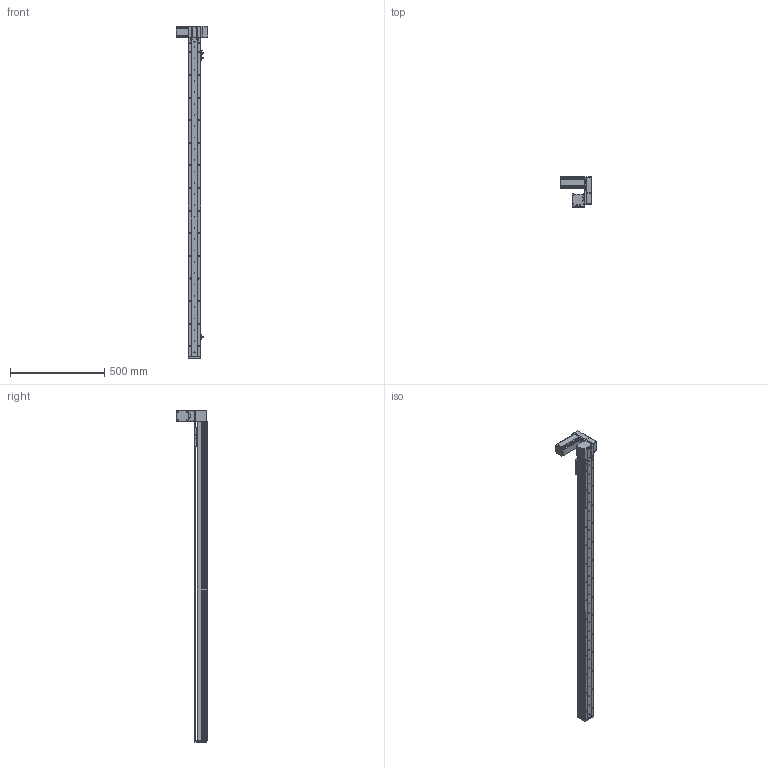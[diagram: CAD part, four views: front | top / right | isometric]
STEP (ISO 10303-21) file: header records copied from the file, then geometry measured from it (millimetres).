
FILE_DESCRIPTION (( 'STEP AP214' ), '1' );
FILE_NAME ('KSD68BS-S1500-MLU-CM.STEP', '2019-10-19T09:27:45', ( '微软用户' ), ( '微软中国' ), 'SwSTEP 2.0', 'SolidWorks 2014', '' );
FILE_SCHEMA (( 'AUTOMOTIVE_DESIGN' ));
Length unit declared in the file: millimetre
Products named in the file (11): 台达ECMA－C20604AS伺服电机（400W); KSD68BS 1500俴最菁啣圉猾敕; KSD68BS-S1500-MLU-CM; 悵誘欶奻狟殏; 68宽马达安装板连板上折同步带; 68宽单导轨半封闭同步带主动轮座左; 68单导轨同步带半封闭端板; KSD68BS 1500俴最裔啣圉猾敕; 覜茼え68遵圉猾敕; KSD68BS半封闭同步带传动导轨座; U倰嫖萇EEㄜSX672
Assembly tree (12 placements, depth 2):
  KSD68BS-S1500-MLU-CM
    KSD68BS 1500俴最菁啣圉猾敕
    台达ECMA－C20604AS伺服电机（400W)
    U倰嫖萇EEㄜSX672  x3
    KSD68BS半封闭同步带传动导轨座
    覜茼え68遵圉猾敕
    KSD68BS 1500俴最裔啣圉猾敕
    68单导轨同步带半封闭端板
    68宽单导轨半封闭同步带主动轮座左
    68宽马达安装板连板上折同步带
    悵誘欶奻狟殏
Bounding box: 167.2 x 159.5 x 1762 mm (x, y, z)
Volume: 3000915.1 mm3; surface area: 1106509.8 mm2
Topology: 13 solids, 13 shells, 1572 faces, 4598 edges, 2996 vertices
Faces by surface type: cylinder 824, plane 665, cone 83
Entity records: 61054 total; most frequent: CARTESIAN_POINT 12262, ORIENTED_EDGE 7948, DIRECTION 7694, EDGE_CURVE 3974, AXIS2_PLACEMENT_3D 2772, VERTEX_POINT 2620, LINE 2150, VECTOR 2150
